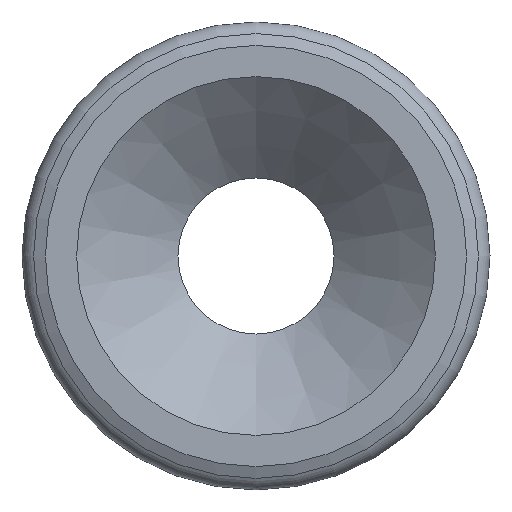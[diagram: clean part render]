
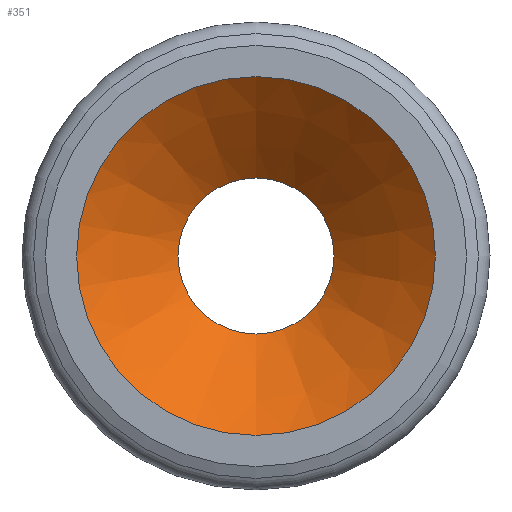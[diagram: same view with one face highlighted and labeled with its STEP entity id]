
A CAD part, front view. The second image highlights one B-rep face of the part: STEP entity #351.
In plain terms, the highlighted conical face has half-angle 48.814 degrees and reference radius 1 mm.
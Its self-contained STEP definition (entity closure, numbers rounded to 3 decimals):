
#1 = DIRECTION ( 'NONE',  ( 0., 0., 1. ) ) ;
#25 = VERTEX_POINT ( 'NONE', #28 ) ;
#28 = CARTESIAN_POINT ( 'NONE',  ( 0., -2.15, 2.3 ) ) ;
#40 = AXIS2_PLACEMENT_3D ( 'NONE', #178, #96, #147 ) ;
#44 = EDGE_CURVE ( 'NONE', #25, #25, #204, .T. ) ;
#45 = FACE_OUTER_BOUND ( 'NONE', #266, .T. ) ;
#51 = CARTESIAN_POINT ( 'NONE',  ( 0., -1.013, 1. ) ) ;
#55 = CONICAL_SURFACE ( 'NONE', #40, 1., 0.852 ) ;
#56 = ORIENTED_EDGE ( 'NONE', *, *, #44, .F. ) ;
#58 = AXIS2_PLACEMENT_3D ( 'NONE', #272, #166, #1 ) ;
#88 = CIRCLE ( 'NONE', #126, 1. ) ;
#92 = DIRECTION ( 'NONE',  ( 0., 0., 1. ) ) ;
#96 = DIRECTION ( 'NONE',  ( 0., -1., 0. ) ) ;
#125 = CARTESIAN_POINT ( 'NONE',  ( 0., -1.013, 0. ) ) ;
#126 = AXIS2_PLACEMENT_3D ( 'NONE', #125, #330, #92 ) ;
#147 = DIRECTION ( 'NONE',  ( 0., 0., -1. ) ) ;
#166 = DIRECTION ( 'NONE',  ( 0., 1., 0. ) ) ;
#178 = CARTESIAN_POINT ( 'NONE',  ( 0., -1.013, 0. ) ) ;
#195 = EDGE_CURVE ( 'NONE', #214, #214, #88, .T. ) ;
#204 = CIRCLE ( 'NONE', #58, 2.3 ) ;
#214 = VERTEX_POINT ( 'NONE', #51 ) ;
#266 = EDGE_LOOP ( 'NONE', ( #56 ) ) ;
#272 = CARTESIAN_POINT ( 'NONE',  ( 0., -2.15, 0. ) ) ;
#298 = ORIENTED_EDGE ( 'NONE', *, *, #195, .T. ) ;
#330 = DIRECTION ( 'NONE',  ( 0., 1., 0. ) ) ;
#335 = FACE_BOUND ( 'NONE', #344, .T. ) ;
#344 = EDGE_LOOP ( 'NONE', ( #298 ) ) ;
#351 = ADVANCED_FACE ( 'NONE', ( #45, #335 ), #55, .F. ) ;
